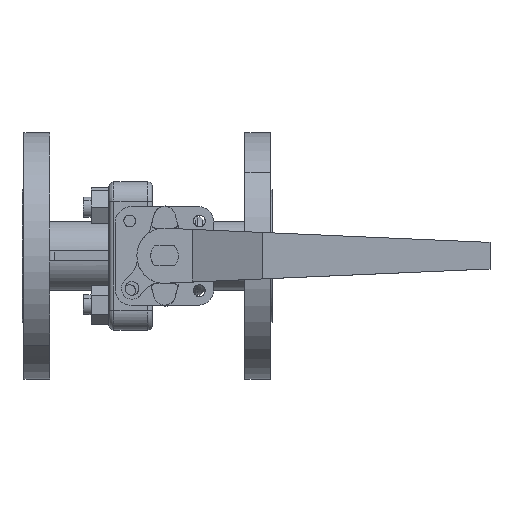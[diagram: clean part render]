
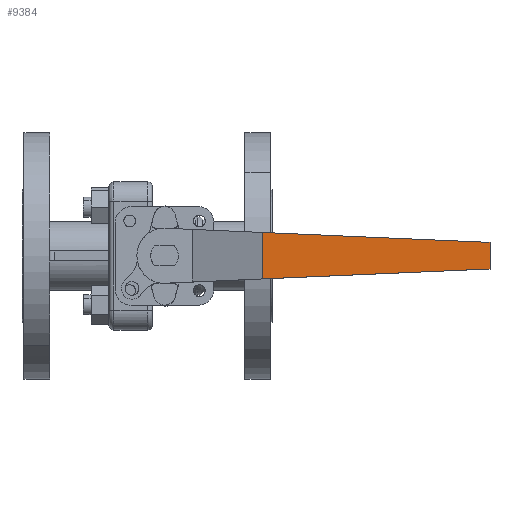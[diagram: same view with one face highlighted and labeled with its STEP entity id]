
A CAD part, top view. The second image highlights one B-rep face of the part: STEP entity #9384.
In plain terms, the highlighted free-form (B-spline) face has degree [1, 1] with [2, 2] control points.
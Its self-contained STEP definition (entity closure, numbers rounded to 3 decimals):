
#9326=CARTESIAN_POINT('',(49.767,91.,-11.777));
#9327=VERTEX_POINT('',#9326);
#9342=CARTESIAN_POINT('',(49.767,91.,11.777));
#9343=VERTEX_POINT('',#9342);
#9349=CARTESIAN_POINT('',(49.767,91.,11.777));
#9350=CARTESIAN_POINT('',(49.767,91.,-11.777));
#9351=QUASI_UNIFORM_CURVE('',1,(#9349,#9350),.UNSPECIFIED.,.F.,.U.);
#9352=EDGE_CURVE('',#9343,#9327,#9351,.T.);
#9357=CARTESIAN_POINT('',(44.011,91.,-12.954));
#9358=CARTESIAN_POINT('',(170.756,91.,-12.954));
#9359=CARTESIAN_POINT('',(44.011,91.,12.954));
#9360=CARTESIAN_POINT('',(170.756,91.,12.954));
#9361=B_SPLINE_SURFACE_WITH_KNOTS('',1,1,((#9357,#9359),(#9358,#9360)),.UNSPECIFIED.,.F.,.F.,.U.,(2,2),(2,2),(0.,126.745),(0.,25.907),.UNSPECIFIED.);
#9362=CARTESIAN_POINT('',(165.,91.,-6.746));
#9363=VERTEX_POINT('',#9362);
#9364=CARTESIAN_POINT('',(165.,91.,-6.746));
#9365=CARTESIAN_POINT('',(49.767,91.,-11.777));
#9366=QUASI_UNIFORM_CURVE('',1,(#9364,#9365),.UNSPECIFIED.,.F.,.U.);
#9367=EDGE_CURVE('',#9363,#9327,#9366,.T.);
#9368=ORIENTED_EDGE('',*,*,#9367,.T.);
#9369=ORIENTED_EDGE('',*,*,#9352,.F.);
#9370=CARTESIAN_POINT('',(165.,91.,6.746));
#9371=VERTEX_POINT('',#9370);
#9372=CARTESIAN_POINT('',(165.,91.,6.746));
#9373=CARTESIAN_POINT('',(49.767,91.,11.777));
#9374=QUASI_UNIFORM_CURVE('',1,(#9372,#9373),.UNSPECIFIED.,.F.,.U.);
#9375=EDGE_CURVE('',#9371,#9343,#9374,.T.);
#9376=ORIENTED_EDGE('',*,*,#9375,.F.);
#9377=CARTESIAN_POINT('',(165.,91.,6.746));
#9378=CARTESIAN_POINT('',(165.,91.,-6.746));
#9379=QUASI_UNIFORM_CURVE('',1,(#9377,#9378),.UNSPECIFIED.,.F.,.U.);
#9380=EDGE_CURVE('',#9371,#9363,#9379,.T.);
#9381=ORIENTED_EDGE('',*,*,#9380,.T.);
#9382=EDGE_LOOP('',(#9368,#9369,#9376,#9381));
#9383=FACE_OUTER_BOUND('',#9382,.T.);
#9384=ADVANCED_FACE('',(#9383),#9361,.F.);
